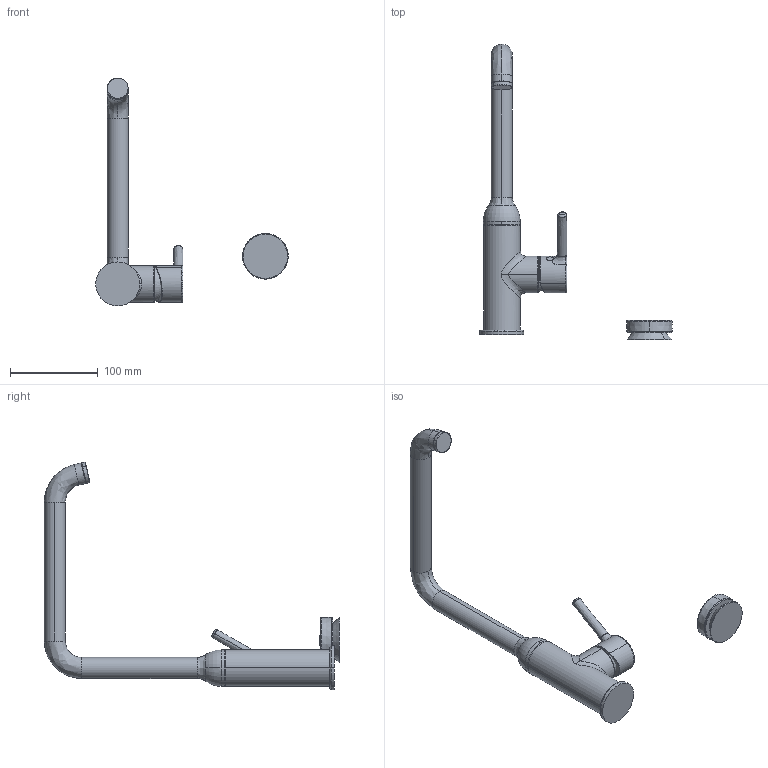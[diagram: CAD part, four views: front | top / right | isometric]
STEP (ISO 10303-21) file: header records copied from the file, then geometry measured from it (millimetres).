
FILE_DESCRIPTION (( 'STEP AP203' ), '1' );
FILE_NAME ('2639FH(2023).STEP', '2024-01-23T08:56:12', ( '' ), ( '' ), 'SwSTEP 2.0', 'SolidWorks 2016', '' );
FILE_SCHEMA (( 'CONFIG_CONTROL_DESIGN' ));
Length unit declared in the file: millimetre
Products named in the file (1): 2639FH(2023)
Bounding box: 218.92 x 336 x 259.19 mm (x, y, z)
Volume: 527324.7 mm3; surface area: 90188.2 mm2
Topology: 9 solids, 9 shells, 124 faces, 270 edges, 170 vertices
Faces by surface type: bspline 47, cylinder 32, plane 23, torus 16, cone 4, sphere 2
Entity records: 9616 total; most frequent: CARTESIAN_POINT 7096, ORIENTED_EDGE 540, DIRECTION 456, EDGE_CURVE 270, AXIS2_PLACEMENT_3D 208, VERTEX_POINT 170, EDGE_LOOP 130, CIRCLE 130
